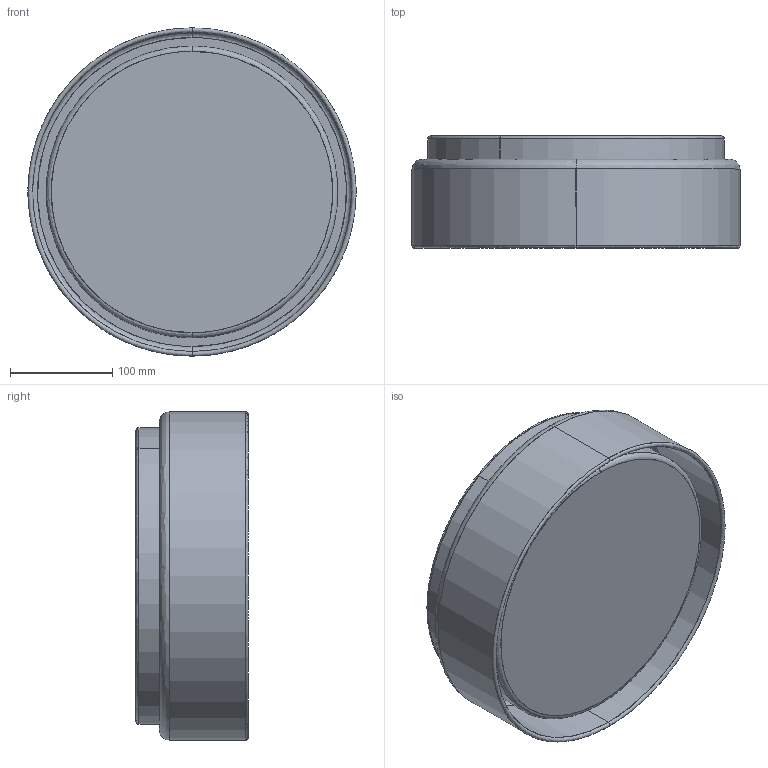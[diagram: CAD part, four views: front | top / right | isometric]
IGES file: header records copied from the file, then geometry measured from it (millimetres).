
Start section: SolidWorks IGES file using analytic representation for surfaces
Global section: file name: Z:\Modele 3D_WWW\_KOLEKCJE_WWW\PAN-LED\PAN-LED-M-8174\PAN-LED-M-8174.IGS; native system: SolidWorks 2020; preprocessor: SolidWorks 2020; author: gabriela.tworek; date: 210401.204109; units: millimetre
Bounding box: 320.8 x 109.6 x 320.8 mm (x, y, z)
Surface area: 905498.4 mm2 (no closed solid volume)
Topology: 0 solids, 0 shells, 77 faces, 1848 edges, 1848 vertices
Faces by surface type: bspline 39, revolution 38
